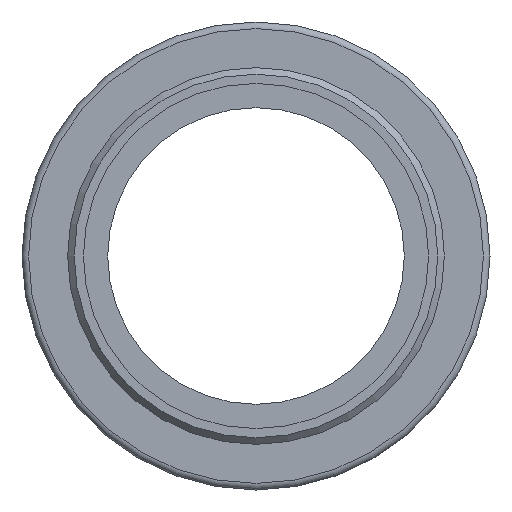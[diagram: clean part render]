
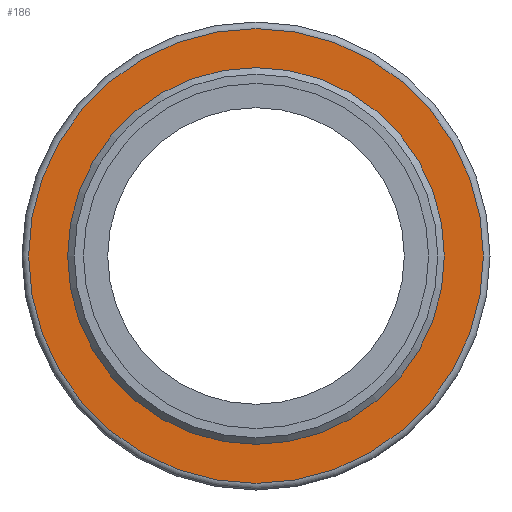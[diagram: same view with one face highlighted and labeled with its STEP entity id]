
A CAD part, front view. The second image highlights one B-rep face of the part: STEP entity #186.
In plain terms, the highlighted planar face has unit normal (0, -1, 0).
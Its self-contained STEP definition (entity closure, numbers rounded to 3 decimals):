
#34=PLANE('',#236);
#55=ORIENTED_EDGE('',*,*,#81,.T.);
#56=ORIENTED_EDGE('',*,*,#80,.F.);
#80=EDGE_CURVE('',#95,#95,#110,.T.);
#81=EDGE_CURVE('',#96,#96,#111,.T.);
#95=VERTEX_POINT('',#342);
#96=VERTEX_POINT('',#345);
#110=CIRCLE('',#235,57.15);
#111=CIRCLE('',#237,69.);
#130=EDGE_LOOP('',(#55));
#131=EDGE_LOOP('',(#56));
#160=FACE_BOUND('',#130,.T.);
#161=FACE_BOUND('',#131,.T.);
#186=ADVANCED_FACE('',(#160,#161),#34,.T.);
#235=AXIS2_PLACEMENT_3D('',#341,#282,#283);
#236=AXIS2_PLACEMENT_3D('',#343,#284,#285);
#237=AXIS2_PLACEMENT_3D('',#344,#286,#287);
#282=DIRECTION('',(0.,-1.,0.));
#283=DIRECTION('',(0.,0.,-1.));
#284=DIRECTION('',(0.,-1.,0.));
#285=DIRECTION('',(0.,0.,-1.));
#286=DIRECTION('',(0.,-1.,0.));
#287=DIRECTION('',(0.,0.,-1.));
#341=CARTESIAN_POINT('',(0.,0.,0.));
#342=CARTESIAN_POINT('',(0.,0.,-57.15));
#343=CARTESIAN_POINT('',(0.,0.,57.15));
#344=CARTESIAN_POINT('',(0.,0.,0.));
#345=CARTESIAN_POINT('',(0.,0.,-69.));
